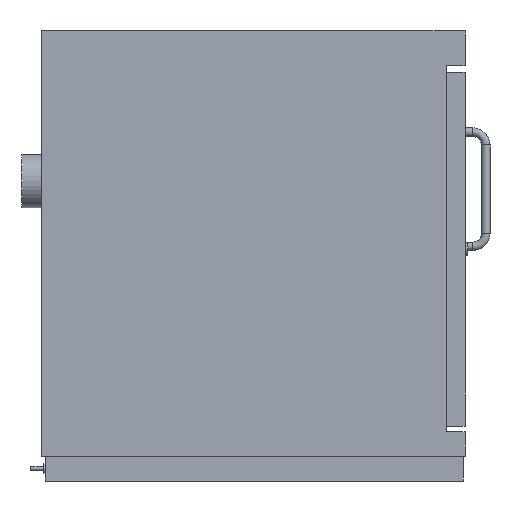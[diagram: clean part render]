
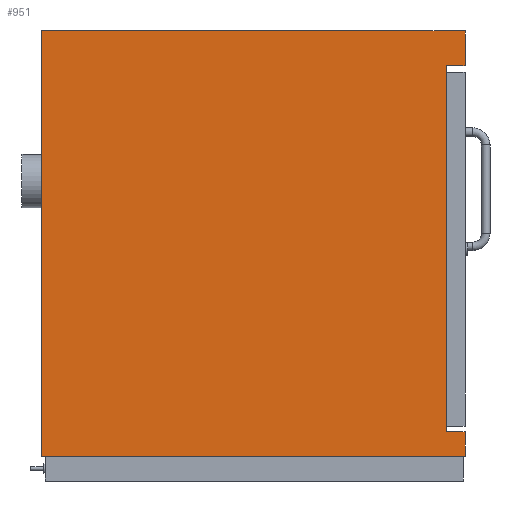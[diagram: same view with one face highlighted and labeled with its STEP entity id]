
A CAD part, left-side view. The second image highlights one B-rep face of the part: STEP entity #951.
In plain terms, the highlighted planar face has unit normal (-1, 0, 0).
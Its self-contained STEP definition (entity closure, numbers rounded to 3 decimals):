
#53=LINE('',#1301,#113);
#54=LINE('',#1303,#114);
#59=LINE('',#1313,#119);
#62=LINE('',#1319,#122);
#63=LINE('',#1321,#123);
#78=LINE('',#1356,#138);
#79=LINE('',#1358,#139);
#80=LINE('',#1360,#140);
#113=VECTOR('',#1121,1000.);
#114=VECTOR('',#1124,1000.);
#119=VECTOR('',#1131,1000.);
#122=VECTOR('',#1136,1000.);
#123=VECTOR('',#1139,1000.);
#138=VECTOR('',#1172,1000.);
#139=VECTOR('',#1175,1000.);
#140=VECTOR('',#1176,1000.);
#275=ORIENTED_EDGE('',*,*,#360,.F.);
#276=ORIENTED_EDGE('',*,*,#357,.T.);
#277=ORIENTED_EDGE('',*,*,#352,.T.);
#278=ORIENTED_EDGE('',*,*,#351,.F.);
#279=ORIENTED_EDGE('',*,*,#378,.F.);
#280=ORIENTED_EDGE('',*,*,#379,.T.);
#281=ORIENTED_EDGE('',*,*,#380,.T.);
#282=ORIENTED_EDGE('',*,*,#361,.F.);
#351=EDGE_CURVE('',#421,#418,#53,.T.);
#352=EDGE_CURVE('',#422,#418,#54,.T.);
#357=EDGE_CURVE('',#425,#422,#59,.T.);
#360=EDGE_CURVE('',#425,#427,#62,.T.);
#361=EDGE_CURVE('',#427,#428,#63,.T.);
#378=EDGE_CURVE('',#438,#421,#78,.T.);
#379=EDGE_CURVE('',#438,#439,#79,.T.);
#380=EDGE_CURVE('',#439,#428,#80,.T.);
#418=VERTEX_POINT('',#1295);
#421=VERTEX_POINT('',#1300);
#422=VERTEX_POINT('',#1304);
#425=VERTEX_POINT('',#1311);
#427=VERTEX_POINT('',#1317);
#428=VERTEX_POINT('',#1322);
#438=VERTEX_POINT('',#1355);
#439=VERTEX_POINT('',#1359);
#508=EDGE_LOOP('',(#275,#276,#277,#278,#279,#280,#281,#282));
#572=FACE_BOUND('',#508,.T.);
#615=PLANE('',#1011);
#951=ADVANCED_FACE('',(#572),#615,.F.);
#1011=AXIS2_PLACEMENT_3D('',#1357,#1173,#1174);
#1121=DIRECTION('',(0.,0.,-1.));
#1124=DIRECTION('',(0.,-1.,0.));
#1131=DIRECTION('',(0.,0.,1.));
#1136=DIRECTION('',(0.,-1.,0.));
#1139=DIRECTION('',(0.,0.,-1.));
#1172=DIRECTION('',(0.,-1.,0.));
#1173=DIRECTION('',(1.,0.,0.));
#1174=DIRECTION('',(0.,0.,-1.));
#1175=DIRECTION('',(0.,0.,-1.));
#1176=DIRECTION('',(0.,-1.,0.));
#1295=CARTESIAN_POINT('',(-105.75,0.,547.));
#1300=CARTESIAN_POINT('',(-105.75,0.,596.));
#1301=CARTESIAN_POINT('',(-105.75,0.,596.));
#1303=CARTESIAN_POINT('',(-105.75,26.,547.));
#1304=CARTESIAN_POINT('',(-105.75,26.,547.));
#1311=CARTESIAN_POINT('',(-105.75,26.,34.));
#1313=CARTESIAN_POINT('',(-105.75,26.,547.));
#1317=CARTESIAN_POINT('',(-105.75,0.,34.));
#1319=CARTESIAN_POINT('',(-105.75,26.,34.));
#1321=CARTESIAN_POINT('',(-105.75,0.,596.));
#1322=CARTESIAN_POINT('',(-105.75,0.,0.));
#1355=CARTESIAN_POINT('',(-105.75,593.5,596.));
#1356=CARTESIAN_POINT('',(-105.75,493.,596.));
#1357=CARTESIAN_POINT('',(-105.75,493.,596.));
#1358=CARTESIAN_POINT('',(-105.75,593.5,596.));
#1359=CARTESIAN_POINT('',(-105.75,593.5,0.));
#1360=CARTESIAN_POINT('',(-105.75,493.,0.));
